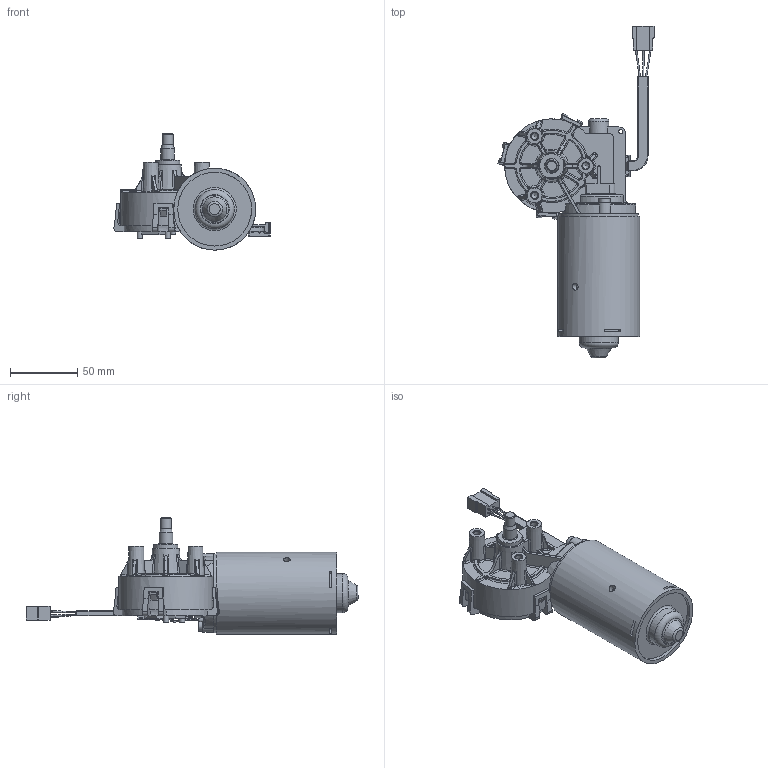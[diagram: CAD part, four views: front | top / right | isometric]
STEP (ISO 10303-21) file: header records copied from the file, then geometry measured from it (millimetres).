
FILE_DESCRIPTION(/* description */ (''),/* implementation_level */ '2;1');
FILE_NAME(/* name */ 'F006A20145_06.stp',/* time_stamp */ '2014-07-31T12:40:28+07:00',/* author */ (''),/* organization */ (''),/* preprocessor_version */ 'ST-DEVELOPER v11',/* originating_system */ 'SIEMENS PLM Software NX 7.5',/* authorisation */ '');
FILE_SCHEMA (('CONFIG_CONTROL_DESIGN'));
Length unit declared in the file: millimetre
Products named in the file (1): F006A20145_06
Bounding box: 116.21 x 247.15 x 86.5 mm (x, y, z)
Volume: 456610.6 mm3; surface area: 59588.3 mm2
Topology: 1 solids, 5 shells, 1008 faces, 2728 edges, 1699 vertices
Faces by surface type: plane 438, cylinder 306, bspline 116, torus 90, sphere 30, cone 28
Full cylindrical faces by diameter (mm): 3 x3, 4 x7, 5 x7, 5.4 x2, 5.7 x2, 8 x1, 8.5 x2, 10 x1, 15 x1, 18 x1, 29.1 x1, 55 x1, 59 x1, 61 x1
Entity records: 37887 total; most frequent: CARTESIAN_POINT 13841, ORIENTED_EDGE 5094, DIRECTION 4876, EDGE_CURVE 2547, AXIS2_PLACEMENT_3D 1865, VERTEX_POINT 1658, EDGE_LOOP 1164, LINE 1146
